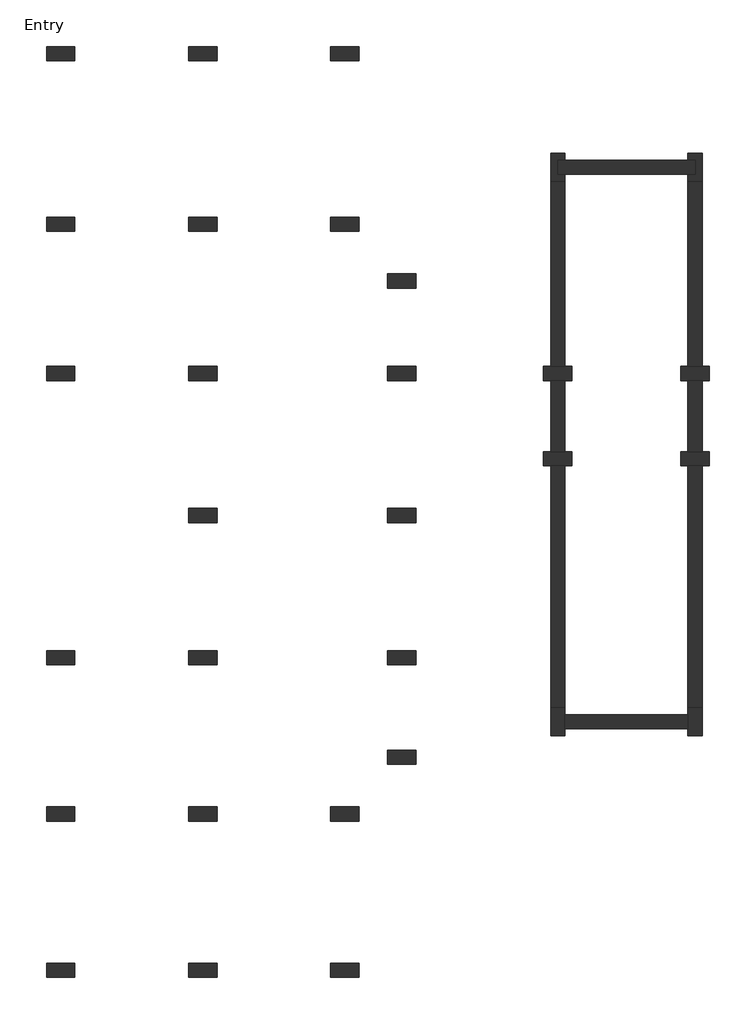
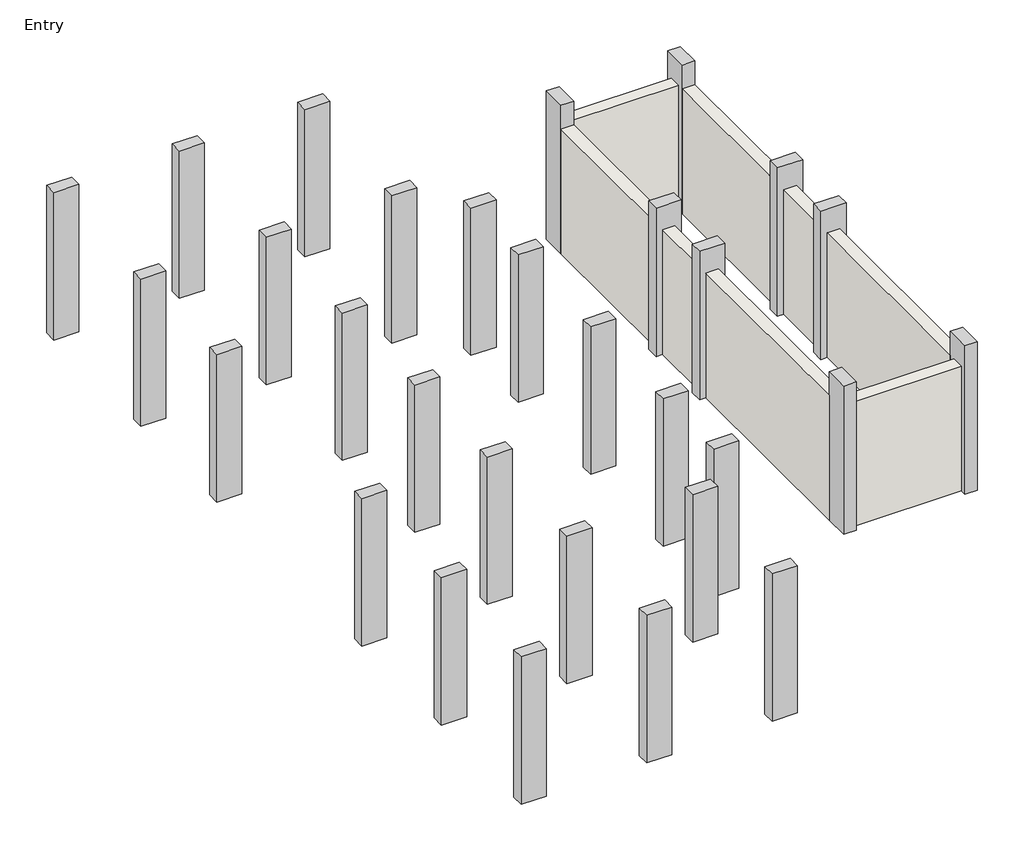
# One storey: 30 columns, 8 walls.
"""IFC4 building model written with IfcOpenShell, lengths in millimetres."""

import ifcopenshell
import ifcopenshell.guid

model = None  # the IFC model being written
_history = None  # IfcOwnerHistory: only IFC2X3 demands one
_inside = {}  # id of a spatial element -> (the spatial element, [elements in it])
_under = {}  # id of a project, library or spatial element -> (it, [spatial elements below it])
_declared = {}  # id of a project -> (the project, [libraries it declares])
_typed = {}  # id of a type object -> (the type object, [elements of that type])
_made_of = {}  # id of a material, layer set ... -> (it, [elements and type objects made of it])


def new_model(schema):
    """Start an empty IFC model of exactly this schema.

    Asked for "IFC4X3", IfcOpenShell would pick the latest addendum, in which some entities
    have other attributes; the version numbers below select the first issue.
    IFC2X3 requires an IfcOwnerHistory on every rooted entity: one is made here for all.
    """
    global model, _history
    if schema == "IFC4X3":
        model = ifcopenshell.file(schema_version=(4, 3, 0, 0))
    else:
        model = ifcopenshell.file(schema=schema)
    _inside.clear()
    _under.clear()
    _declared.clear()
    _typed.clear()
    _made_of.clear()
    _history = None
    if model.schema == "IFC2X3":
        org = make("IfcOrganization", Name="unknown")
        user = make(
            "IfcPersonAndOrganization",
            ThePerson=make("IfcPerson", FamilyName="unknown"),
            TheOrganization=org,
        )
        app = make(
            "IfcApplication",
            ApplicationDeveloper=org,
            Version="unknown",
            ApplicationFullName="unknown",
            ApplicationIdentifier="unknown",
        )
        _history = make(
            "IfcOwnerHistory",
            OwningUser=user,
            OwningApplication=app,
            ChangeAction="ADDED",
            CreationDate=0,
        )
    return model


def make(cls, **values):
    """One entity of the class cls with the attributes given. An attribute that is None is left unset."""
    return model.create_entity(
        cls, **{name: value for name, value in values.items() if value is not None}
    )


def rooted(cls, **values):
    """An entity with a GlobalId (a new one), such as an element, a storey or a relation."""
    return make(cls, GlobalId=ifcopenshell.guid.new(), OwnerHistory=_history, **values)


def si_unit(unit_type, name, prefix=None):
    """IfcSIUnit, for example si_unit("LENGTHUNIT", "METRE", prefix="MILLI")."""
    return make("IfcSIUnit", UnitType=unit_type, Prefix=prefix, Name=name)


def assignment(units):
    """IfcUnitAssignment: the units of a project."""
    return None if units is None else make("IfcUnitAssignment", Units=units)


def point(xyz):
    """IfcCartesianPoint."""
    return None if xyz is None else make("IfcCartesianPoint", Coordinates=xyz)


def direction(xyz):
    """IfcDirection."""
    return None if xyz is None else make("IfcDirection", DirectionRatios=xyz)


def frame(location, z_axis=None, x_axis=None):
    """IfcAxis2Placement3D, a coordinate frame: its origin and axes. An axis left out is left unset."""
    return make(
        "IfcAxis2Placement3D",
        Location=point(location),
        Axis=direction(z_axis),
        RefDirection=direction(x_axis),
    )


def origin():
    """The frame at (0, 0, 0) with its axes left unset."""
    return frame((0.0, 0.0, 0.0))


def origin_with_axes():
    """The frame at (0, 0, 0) with the z axis (0, 0, 1) and the x axis (1, 0, 0) written out."""
    return frame((0.0, 0.0, 0.0), z_axis=(0.0, 0.0, 1.0), x_axis=(1.0, 0.0, 0.0))


def place(relative_to, where):
    """IfcLocalPlacement: puts the frame where relative to a parent placement (None: the world)."""
    return make(
        "IfcLocalPlacement", PlacementRelTo=relative_to, RelativePlacement=where
    )


def context(
    kind, dimensions, precision=None, world=None, true_north=None, identifier=None
):
    """IfcGeometricRepresentationContext, for example the 3D "Model" context."""
    return make(
        "IfcGeometricRepresentationContext",
        ContextIdentifier=identifier,
        ContextType=kind,
        CoordinateSpaceDimension=dimensions,
        Precision=precision,
        WorldCoordinateSystem=world,
        TrueNorth=true_north,
    )


def project(units=None, contexts=None):
    """IfcProject with its units and contexts."""
    return rooted(
        "IfcProject",
        Name="project",
        RepresentationContexts=contexts,
        UnitsInContext=assignment(units),
    )


def spatial(cls, under=None, at=None, **own):
    """A site, building, storey or space (cls), placed at a placement, below another one or the project."""
    s = rooted(cls, ObjectPlacement=at, **own)
    if under is not None:
        _under.setdefault(under.id(), (under, []))[1].append(s)
    return s


def polyline(points):
    """IfcPolyline through the points."""
    return make("IfcPolyline", Points=[point(p) for p in points])


def outline(outer, holes=None, kind="AREA"):
    """IfcArbitraryClosedProfileDef: a profile drawn as a closed curve; with holes, ...WithVoids."""
    if holes is None:
        return make("IfcArbitraryClosedProfileDef", ProfileType=kind, OuterCurve=outer)
    return make(
        "IfcArbitraryProfileDefWithVoids",
        ProfileType=kind,
        OuterCurve=outer,
        InnerCurves=holes,
    )


def extrude(swept, where, along, depth):
    """IfcExtrudedAreaSolid: the profile swept, set in the frame where, extruded along a direction by depth."""
    return make(
        "IfcExtrudedAreaSolid",
        SweptArea=swept,
        Position=where,
        ExtrudedDirection=direction(along),
        Depth=depth,
    )


def faces_of(points, faces, orient=None, outer=None):
    """IfcFace entities. A face is a list of loops; a loop is a list of indices into points, from 0.

    orient and outer hold one flag for each loop. By default every Orientation is true, the
    first loop of a face is its IfcFaceOuterBound and the others are IfcFaceBound.
    """
    made = []
    for i, loops in enumerate(faces):
        bounds = []
        for j, loop in enumerate(loops):
            is_outer = j == 0 if outer is None else outer[i][j]
            bounds.append(
                make(
                    "IfcFaceOuterBound" if is_outer else "IfcFaceBound",
                    Bound=make("IfcPolyLoop", Polygon=[points[k] for k in loop]),
                    Orientation=True if orient is None else orient[i][j],
                )
            )
        made.append(make("IfcFace", Bounds=bounds))
    return made


def faceted_brep(points, faces, orient=None, outer=None, voids=None):
    """IfcFacetedBrep: a solid bounded by flat faces; with voids (closed shells), ...WithVoids."""
    shared = [point(p) for p in points]
    hull = make("IfcClosedShell", CfsFaces=faces_of(shared, faces, orient, outer))
    if voids is None:
        return make("IfcFacetedBrep", Outer=hull)
    return make(
        "IfcFacetedBrepWithVoids",
        Outer=hull,
        Voids=[
            make(cls, CfsFaces=faces_of(shared, fs, o, b)) for cls, fs, o, b in voids
        ],
    )


def shape(context_of_items, identifier, shape_type, items):
    """IfcShapeRepresentation: the items that make up one representation, for example the "Body"."""
    return make(
        "IfcShapeRepresentation",
        ContextOfItems=context_of_items,
        RepresentationIdentifier=identifier,
        RepresentationType=shape_type,
        Items=items,
    )


def source(mapping_origin, context_of_items, identifier, shape_type, items):
    """IfcRepresentationMap: a shape defined once, which mapped items show again and again."""
    return make(
        "IfcRepresentationMap",
        MappingOrigin=mapping_origin,
        MappedRepresentation=shape(context_of_items, identifier, shape_type, items),
    )


def transform(
    local_origin,
    x_axis=None,
    y_axis=None,
    z_axis=None,
    scale=None,
    scale2=None,
    scale3=None,
    uniform=True,
):
    """IfcCartesianTransformationOperator3D, or its non-uniform kind. x_axis, y_axis, z_axis: its Axis1, 2, 3."""
    if uniform:
        return make(
            "IfcCartesianTransformationOperator3D",
            Axis1=direction(x_axis),
            Axis2=direction(y_axis),
            LocalOrigin=point(local_origin),
            Scale=scale,
            Axis3=direction(z_axis),
        )
    return make(
        "IfcCartesianTransformationOperator3DnonUniform",
        Axis1=direction(x_axis),
        Axis2=direction(y_axis),
        LocalOrigin=point(local_origin),
        Scale=scale,
        Axis3=direction(z_axis),
        Scale2=scale2,
        Scale3=scale3,
    )


def mapped(mapping_source, mapping_target):
    """IfcMappedItem: shows the shape of a source again, moved by a transform."""
    return make(
        "IfcMappedItem", MappingSource=mapping_source, MappingTarget=mapping_target
    )


def made_of(thing, what):
    """Note that an element or type object is made of a material, layer set ...; save() writes the relation."""
    if what is not None:
        _made_of.setdefault(what.id(), (what, []))[1].append(thing)
    return thing


def element(
    cls,
    number,
    at=None,
    inside=None,
    cuts=None,
    type_object=None,
    material=None,
    context=None,
    identifier="Body",
    shape_type=None,
    held_by="IfcProductDefinitionShape",
    body=None,
    shapes=None,
    **own,
):
    """One element of the class cls, such as IfcWall. Its Tag is "e" and its number.

    at: its placement. inside: the storey or other place that contains it. cuts: it is an
    opening in that element (IfcRelVoidsElement). A single representation is given by context,
    identifier, shape_type and body (its items); several are given by shapes. held_by: the class
    of the entity that holds the representations. save() writes the other relations.
    """
    e = rooted(cls, Tag="e%d" % number, ObjectPlacement=at, **own)
    if body is not None:
        shapes = [shape(context, identifier, shape_type, body)]
    if shapes is not None:
        e.Representation = make(held_by, Representations=shapes)
    if inside is not None:
        _inside.setdefault(inside.id(), (inside, []))[1].append(e)
    if cuts is not None:
        rooted(
            "IfcRelVoidsElement", RelatingBuildingElement=cuts, RelatedOpeningElement=e
        )
    if type_object is not None:
        _typed.setdefault(type_object.id(), (type_object, []))[1].append(e)
    return made_of(e, material)


def aggregate(whole, parts):
    """IfcRelAggregates: a whole, such as a stair, and the parts it consists of."""
    return rooted("IfcRelAggregates", RelatingObject=whole, RelatedObjects=parts)


def save(model, path):
    """Write the relations noted so far, then the file.

    IfcRelAggregates (storeys below a building ...), IfcRelContainedInSpatialStructure (elements
    in a storey), IfcRelDefinesByType, IfcRelAssociatesMaterial and IfcRelDeclares: one each for
    every whole, place, type object, material and project.
    """
    for whole, parts in _under.values():
        aggregate(whole, parts)
    for where, things in _inside.values():
        rooted(
            "IfcRelContainedInSpatialStructure",
            RelatedElements=things,
            RelatingStructure=where,
        )
    for kind, things in _typed.values():
        rooted("IfcRelDefinesByType", RelatedObjects=things, RelatingType=kind)
    for what, things in _made_of.values():
        rooted("IfcRelAssociatesMaterial", RelatedObjects=things, RelatingMaterial=what)
    for by, libraries in _declared.values():
        rooted("IfcRelDeclares", RelatingContext=by, RelatedDefinitions=libraries)
    model.write(path)


def concrete_rectangular_column_12_x_24_13f89b02(model_context):
    return source(origin(), model_context, "Body", "SweptSolid", [
        extrude(outline(polyline([(152.4, 304.8), (152.4, -304.8), (-152.4, -304.8), (-152.4, 304.8), (152.4, 304.8)])), origin_with_axes(), (0.0, 0.0, 1.0), 3784.6),
    ])


model = new_model("IFC4")

# Units and contexts
model_context = context("Model", 3, world=origin())
ifc_project = project(units=[si_unit("LENGTHUNIT", "METRE", prefix="MILLI")], contexts=[model_context])

# Site, building, storey
site = spatial("IfcSite", under=ifc_project)
building = spatial("IfcBuilding", under=site)
storey = spatial("IfcBuildingStorey", under=building, Name="Entry", Elevation=0.0)

# Columns
placement = place(None, origin())
element("IfcColumn", 1, ObjectType="Concrete-Rectangular-Column : 12 x 24", at=placement, inside=storey, context=model_context, shape_type="Brep", body=[
    faceted_brep([(-18217.8572388, 16163.6740068, 0.0), (-18065.4572388, 16163.6740068, 0.0), (-17760.6572388, 16163.6740068, 0.0), (-17608.2572388, 16163.6740068, 0.0), (-17608.2572388, 15858.8740068, 0.0), (-17760.6572388, 15858.8740068, 0.0), (-18065.4572388, 15858.8740068, 0.0), (-18217.8572388, 15858.8740068, 0.0), (-18217.8572388, 16163.6740068, 3810.0), (-17608.2572388, 16163.6740068, 3810.0), (-17608.2572388, 15858.8740068, 3810.0), (-18217.8572388, 15858.8740068, 3810.0)], [[[0, 1, 2, 3, 4, 5, 6, 7]], [[8, 9, 3, 2, 1, 0]], [[9, 10, 4, 3]], [[10, 11, 7, 6, 5, 4]], [[11, 8, 0, 7]], [[8, 11, 10, 9]]]),
])
element("IfcColumn", 2, ObjectType="Concrete-Rectangular-Column : 12 x 24", at=placement, inside=storey, context=model_context, shape_type="Brep", body=[
    faceted_brep([(-15271.4572388, 16163.6740068, 0.0), (-15119.0572388, 16163.6740068, 0.0), (-14814.2572388, 16163.6740068, 0.0), (-14661.8572388, 16163.6740068, 0.0), (-14661.8572388, 15858.8740068, 0.0), (-14814.2572388, 15858.8740068, 0.0), (-15119.0572388, 15858.8740068, 0.0), (-15271.4572388, 15858.8740068, 0.0), (-15271.4572388, 16163.6740068, 3810.0), (-14661.8572388, 16163.6740068, 3810.0), (-14661.8572388, 15858.8740068, 3810.0), (-15271.4572388, 15858.8740068, 3810.0)], [[[0, 1, 2, 3, 4, 5, 6, 7]], [[8, 9, 3, 2, 1, 0]], [[9, 10, 4, 3]], [[10, 11, 7, 6, 5, 4]], [[11, 8, 0, 7]], [[8, 11, 10, 9]]]),
])
element("IfcColumn", 3, ObjectType="Concrete-Rectangular-Column : 12 x 24", at=placement, inside=storey, context=model_context, shape_type="Brep", body=[
    faceted_brep([(-18217.8572388, 14334.8740068, 0.0), (-18065.4572388, 14334.8740068, 0.0), (-17760.6572388, 14334.8740068, 0.0), (-17608.2572388, 14334.8740068, 0.0), (-17608.2572388, 14030.0740068, 0.0), (-17760.6572388, 14030.0740068, 0.0), (-18065.4572388, 14030.0740068, 0.0), (-18217.8572388, 14030.0740068, 0.0), (-18217.8572388, 14334.8740068, 3810.0), (-17608.2572388, 14334.8740068, 3810.0), (-17608.2572388, 14030.0740068, 3810.0), (-18217.8572388, 14030.0740068, 3810.0)], [[[0, 1, 2, 3, 4, 5, 6, 7]], [[8, 9, 3, 2, 1, 0]], [[9, 10, 4, 3]], [[10, 11, 7, 6, 5, 4]], [[11, 8, 0, 7]], [[8, 11, 10, 9]]]),
])
element("IfcColumn", 4, ObjectType="Concrete-Rectangular-Column : 12 x 24", at=placement, inside=storey, context=model_context, shape_type="Brep", body=[
    faceted_brep([(-15271.4572388, 14334.8740068, 0.0), (-15119.0572388, 14334.8740068, 0.0), (-14814.2572388, 14334.8740068, 0.0), (-14661.8572388, 14334.8740068, 0.0), (-14661.8572388, 14030.0740068, 0.0), (-14814.2572388, 14030.0740068, 0.0), (-15119.0572388, 14030.0740068, 0.0), (-15271.4572388, 14030.0740068, 0.0), (-15271.4572388, 14334.8740068, 3810.0), (-14661.8572388, 14334.8740068, 3810.0), (-14661.8572388, 14030.0740068, 3810.0), (-15271.4572388, 14030.0740068, 3810.0)], [[[0, 1, 2, 3, 4, 5, 6, 7]], [[8, 9, 3, 2, 1, 0]], [[9, 10, 4, 3]], [[10, 11, 7, 6, 5, 4]], [[11, 8, 0, 7]], [[8, 11, 10, 9]]]),
])
element("IfcColumn", 5, ObjectType="Concrete-Rectangular-Column : 12 x 24", at=placement, inside=storey, context=model_context, shape_type="Brep", body=[
    faceted_brep([(-18065.4572388, 20126.0740068, 0.0), (-18065.4572388, 20735.6740068, 0.0), (-17760.6572388, 20735.6740068, 0.0), (-17760.6572388, 20583.2740068, 0.0), (-17913.0572388, 20583.2740068, 0.0), (-17913.0572388, 20278.4740068, 0.0), (-17760.6572388, 20278.4740068, 0.0), (-17760.6572388, 20126.0740068, 0.0), (-18065.4572388, 20126.0740068, 3200.4), (-18065.4572388, 20126.0740068, 3810.0), (-18065.4572388, 20735.6740068, 3810.0), (-17760.6572388, 20735.6740068, 3810.0), (-17760.6572388, 20126.0740068, 3810.0), (-17760.6572388, 20126.0740068, 3200.4), (-17760.6572388, 20278.4740068, 3200.4), (-17760.6572388, 20583.2740068, 3200.4), (-17913.0572388, 20583.2740068, 3200.4), (-17913.0572388, 20278.4740068, 3200.4)], [[[0, 1, 2, 3, 4, 5, 6, 7]], [[1, 0, 8, 9, 10]], [[2, 1, 10, 11]], [[2, 11, 12, 13, 7, 6, 14, 15, 3]], [[0, 7, 13, 12, 9, 8]], [[10, 9, 12, 11]], [[16, 4, 3, 15]], [[5, 17, 14, 6]], [[4, 16, 17, 5]], [[17, 16, 15, 14]]]),
])
element("IfcColumn", 6, ObjectType="Concrete-Rectangular-Column : 12 x 24", at=placement, inside=storey, context=model_context, shape_type="Brep", body=[
    faceted_brep([(-15119.0572388, 20735.6740068, 0.0), (-14814.2572388, 20735.6740068, 0.0), (-14814.2572388, 20126.0740068, 0.0), (-15119.0572388, 20126.0740068, 0.0), (-15119.0572388, 20278.4740068, 0.0), (-14966.6572388, 20278.4740068, 0.0), (-14966.6572388, 20583.2740068, 0.0), (-15119.0572388, 20583.2740068, 0.0), (-15119.0572388, 20126.0740068, 3810.0), (-15119.0572388, 20735.6740068, 3810.0), (-15119.0572388, 20583.2740068, 3200.4), (-15119.0572388, 20278.4740068, 3200.4), (-15119.0572388, 20126.0740068, 3200.4), (-14814.2572388, 20735.6740068, 3810.0), (-14814.2572388, 20126.0740068, 3810.0), (-14814.2572388, 20126.0740068, 3200.4), (-14966.6572388, 20583.2740068, 3200.4), (-14966.6572388, 20278.4740068, 3200.4)], [[[0, 1, 2, 3, 4, 5, 6, 7]], [[8, 9, 0, 7, 10, 11, 4, 3, 12]], [[1, 0, 9, 13]], [[2, 1, 13, 14, 15]], [[3, 2, 15, 14, 8, 12]], [[9, 8, 14, 13]], [[6, 16, 10, 7]], [[17, 5, 4, 11]], [[16, 6, 5, 17]], [[16, 17, 11, 10]]]),
])
element("IfcColumn", 7, ObjectType="Concrete-Rectangular-Column : 12 x 24", at=placement, inside=storey, context=model_context, shape_type="Brep", body=[
    faceted_brep([(-18065.4572388, 8238.8740068, 0.0), (-18065.4572388, 8848.4740068, 0.0), (-17760.6572388, 8848.4740068, 0.0), (-17760.6572388, 8696.0740068, 0.0), (-17760.6572388, 8391.2740068, 0.0), (-17760.6572388, 8238.8740068, 0.0), (-18065.4572388, 8238.8740068, 3810.0), (-18065.4572388, 8848.4740068, 3810.0), (-18065.4572388, 8848.4740068, 3200.4), (-17760.6572388, 8848.4740068, 3810.0), (-17760.6572388, 8848.4740068, 3200.4), (-17760.6572388, 8238.8740068, 3810.0)], [[[0, 1, 2, 3, 4, 5]], [[6, 7, 8, 1, 0]], [[7, 9, 10, 2, 1, 8]], [[9, 11, 5, 4, 3, 2, 10]], [[11, 6, 0, 5]], [[6, 11, 9, 7]]]),
])
element("IfcColumn", 8, ObjectType="Concrete-Rectangular-Column : 12 x 24", at=placement, inside=storey, context=model_context, shape_type="Brep", body=[
    faceted_brep([(-15119.0572388, 8238.8740068, 0.0), (-15119.0572388, 8391.2740068, 0.0), (-15119.0572388, 8696.0740068, 0.0), (-15119.0572388, 8848.4740068, 0.0), (-14814.2572388, 8848.4740068, 0.0), (-14814.2572388, 8238.8740068, 0.0), (-15119.0572388, 8238.8740068, 3810.0), (-15119.0572388, 8848.4740068, 3810.0), (-15119.0572388, 8848.4740068, 3200.4), (-14814.2572388, 8848.4740068, 3810.0), (-14814.2572388, 8848.4740068, 3200.4), (-14814.2572388, 8238.8740068, 3810.0)], [[[0, 1, 2, 3, 4, 5]], [[6, 7, 8, 3, 2, 1, 0]], [[7, 9, 10, 4, 3, 8]], [[9, 11, 5, 4, 10]], [[11, 6, 0, 5]], [[6, 11, 9, 7]]]),
])
concrete_rectangular_column_12_x_24_shape = concrete_rectangular_column_12_x_24_13f89b02(model_context)
element("IfcColumn", 9, ObjectType="Concrete-Rectangular-Column : 12 x 24", at=placement, inside=storey, context=model_context, shape_type="MappedRepresentation", body=[
    mapped(concrete_rectangular_column_12_x_24_shape, transform((-28581.0572388, 22869.2740068, 0.0), x_axis=(0.0, 1.0, 0.0), y_axis=(-1.0, 0.0, 0.0), z_axis=(0.0, 0.0, 1.0))),
])
element("IfcColumn", 10, ObjectType="Concrete-Rectangular-Column : 12 x 24", at=placement, inside=storey, context=model_context, shape_type="MappedRepresentation", body=[
    mapped(concrete_rectangular_column_12_x_24_shape, transform((-25533.0572388, 22869.2740068, 0.0), x_axis=(0.0, 1.0, 0.0), y_axis=(-1.0, 0.0, 0.0), z_axis=(0.0, 0.0, 1.0))),
])
element("IfcColumn", 11, ObjectType="Concrete-Rectangular-Column : 12 x 24", at=placement, inside=storey, context=model_context, shape_type="MappedRepresentation", body=[
    mapped(concrete_rectangular_column_12_x_24_shape, transform((-22485.0572388, 22869.2740068, 0.0), x_axis=(0.0, 1.0, 0.0), y_axis=(-1.0, 0.0, 0.0), z_axis=(0.0, 0.0, 1.0))),
])
element("IfcColumn", 12, ObjectType="Concrete-Rectangular-Column : 12 x 24", at=placement, inside=storey, context=model_context, shape_type="MappedRepresentation", body=[
    mapped(concrete_rectangular_column_12_x_24_shape, transform((-28581.0572388, 19211.6740068, 0.0), x_axis=(0.0, 1.0, 0.0), y_axis=(-1.0, 0.0, 0.0), z_axis=(0.0, 0.0, 1.0))),
])
element("IfcColumn", 13, ObjectType="Concrete-Rectangular-Column : 12 x 24", at=placement, inside=storey, context=model_context, shape_type="MappedRepresentation", body=[
    mapped(concrete_rectangular_column_12_x_24_shape, transform((-25533.0572388, 19211.6740068, 0.0), x_axis=(0.0, 1.0, 0.0), y_axis=(-1.0, 0.0, 0.0), z_axis=(0.0, 0.0, 1.0))),
])
element("IfcColumn", 14, ObjectType="Concrete-Rectangular-Column : 12 x 24", at=placement, inside=storey, context=model_context, shape_type="MappedRepresentation", body=[
    mapped(concrete_rectangular_column_12_x_24_shape, transform((-22485.0572388, 19211.6740068, 0.0), x_axis=(0.0, 1.0, 0.0), y_axis=(-1.0, 0.0, 0.0), z_axis=(0.0, 0.0, 1.0))),
])
element("IfcColumn", 15, ObjectType="Concrete-Rectangular-Column : 12 x 24", at=placement, inside=storey, context=model_context, shape_type="MappedRepresentation", body=[
    mapped(concrete_rectangular_column_12_x_24_shape, transform((-21265.8572388, 17992.4740068, 0.0), x_axis=(0.0, 1.0, 0.0), y_axis=(-1.0, 0.0, 0.0), z_axis=(0.0, 0.0, 1.0))),
])
element("IfcColumn", 16, ObjectType="Concrete-Rectangular-Column : 12 x 24", at=placement, inside=storey, context=model_context, shape_type="MappedRepresentation", body=[
    mapped(concrete_rectangular_column_12_x_24_shape, transform((-28581.0572388, 16011.2740068, 0.0), x_axis=(0.0, 1.0, 0.0), y_axis=(-1.0, 0.0, 0.0), z_axis=(0.0, 0.0, 1.0))),
])
element("IfcColumn", 17, ObjectType="Concrete-Rectangular-Column : 12 x 24", at=placement, inside=storey, context=model_context, shape_type="MappedRepresentation", body=[
    mapped(concrete_rectangular_column_12_x_24_shape, transform((-25533.0572388, 16011.2740068, 0.0), x_axis=(0.0, 1.0, 0.0), y_axis=(-1.0, 0.0, 0.0), z_axis=(0.0, 0.0, 1.0))),
])
element("IfcColumn", 18, ObjectType="Concrete-Rectangular-Column : 12 x 24", at=placement, inside=storey, context=model_context, shape_type="MappedRepresentation", body=[
    mapped(concrete_rectangular_column_12_x_24_shape, transform((-21265.8572388, 16011.2740068, 0.0), x_axis=(0.0, 1.0, 0.0), y_axis=(-1.0, 0.0, 0.0), z_axis=(0.0, 0.0, 1.0))),
])
element("IfcColumn", 19, ObjectType="Concrete-Rectangular-Column : 12 x 24", at=placement, inside=storey, context=model_context, shape_type="MappedRepresentation", body=[
    mapped(concrete_rectangular_column_12_x_24_shape, transform((-25533.0572388, 12963.2740068, 0.0), x_axis=(0.0, 1.0, 0.0), y_axis=(-1.0, 0.0, 0.0), z_axis=(0.0, 0.0, 1.0))),
])
element("IfcColumn", 20, ObjectType="Concrete-Rectangular-Column : 12 x 24", at=placement, inside=storey, context=model_context, shape_type="MappedRepresentation", body=[
    mapped(concrete_rectangular_column_12_x_24_shape, transform((-21265.8572388, 12963.2740068, 0.0), x_axis=(0.0, 1.0, 0.0), y_axis=(-1.0, 0.0, 0.0), z_axis=(0.0, 0.0, 1.0))),
])
element("IfcColumn", 21, ObjectType="Concrete-Rectangular-Column : 12 x 24", at=placement, inside=storey, context=model_context, shape_type="MappedRepresentation", body=[
    mapped(concrete_rectangular_column_12_x_24_shape, transform((-28581.0572388, 9915.2740068, 0.0), x_axis=(0.0, 1.0, 0.0), y_axis=(-1.0, 0.0, 0.0), z_axis=(0.0, 0.0, 1.0))),
])
element("IfcColumn", 22, ObjectType="Concrete-Rectangular-Column : 12 x 24", at=placement, inside=storey, context=model_context, shape_type="MappedRepresentation", body=[
    mapped(concrete_rectangular_column_12_x_24_shape, transform((-25533.0572388, 9915.2740068, 0.0), x_axis=(0.0, 1.0, 0.0), y_axis=(-1.0, 0.0, 0.0), z_axis=(0.0, 0.0, 1.0))),
])
element("IfcColumn", 23, ObjectType="Concrete-Rectangular-Column : 12 x 24", at=placement, inside=storey, context=model_context, shape_type="MappedRepresentation", body=[
    mapped(concrete_rectangular_column_12_x_24_shape, transform((-21265.8572388, 9915.2740068, 0.0), x_axis=(0.0, 1.0, 0.0), y_axis=(-1.0, 0.0, 0.0), z_axis=(0.0, 0.0, 1.0))),
])
element("IfcColumn", 24, ObjectType="Concrete-Rectangular-Column : 12 x 24", at=placement, inside=storey, context=model_context, shape_type="MappedRepresentation", body=[
    mapped(concrete_rectangular_column_12_x_24_shape, transform((-21265.8572388, 7781.6740068, 0.0), x_axis=(0.0, 1.0, 0.0), y_axis=(-1.0, 0.0, 0.0), z_axis=(0.0, 0.0, 1.0))),
])
element("IfcColumn", 25, ObjectType="Concrete-Rectangular-Column : 12 x 24", at=placement, inside=storey, context=model_context, shape_type="MappedRepresentation", body=[
    mapped(concrete_rectangular_column_12_x_24_shape, transform((-28581.0572388, 6562.4740068, 0.0), x_axis=(0.0, 1.0, 0.0), y_axis=(-1.0, 0.0, 0.0), z_axis=(0.0, 0.0, 1.0))),
])
element("IfcColumn", 26, ObjectType="Concrete-Rectangular-Column : 12 x 24", at=placement, inside=storey, context=model_context, shape_type="MappedRepresentation", body=[
    mapped(concrete_rectangular_column_12_x_24_shape, transform((-25533.0572388, 6562.4740068, 0.0), x_axis=(0.0, 1.0, 0.0), y_axis=(-1.0, 0.0, 0.0), z_axis=(0.0, 0.0, 1.0))),
])
element("IfcColumn", 27, ObjectType="Concrete-Rectangular-Column : 12 x 24", at=placement, inside=storey, context=model_context, shape_type="MappedRepresentation", body=[
    mapped(concrete_rectangular_column_12_x_24_shape, transform((-22485.0572388, 6562.4740068, 0.0), x_axis=(0.0, 1.0, 0.0), y_axis=(-1.0, 0.0, 0.0), z_axis=(0.0, 0.0, 1.0))),
])
element("IfcColumn", 28, ObjectType="Concrete-Rectangular-Column : 12 x 24", at=placement, inside=storey, context=model_context, shape_type="MappedRepresentation", body=[
    mapped(concrete_rectangular_column_12_x_24_shape, transform((-28581.0572388, 3209.6740068, 0.0), x_axis=(0.0, 1.0, 0.0), y_axis=(-1.0, 0.0, 0.0), z_axis=(0.0, 0.0, 1.0))),
])
element("IfcColumn", 29, ObjectType="Concrete-Rectangular-Column : 12 x 24", at=placement, inside=storey, context=model_context, shape_type="MappedRepresentation", body=[
    mapped(concrete_rectangular_column_12_x_24_shape, transform((-25533.0572388, 3209.6740068, 0.0), x_axis=(0.0, 1.0, 0.0), y_axis=(-1.0, 0.0, 0.0), z_axis=(0.0, 0.0, 1.0))),
])
element("IfcColumn", 30, ObjectType="Concrete-Rectangular-Column : 12 x 24", at=placement, inside=storey, context=model_context, shape_type="MappedRepresentation", body=[
    mapped(concrete_rectangular_column_12_x_24_shape, transform((-22485.0572388, 3209.6740068, 0.0), x_axis=(0.0, 1.0, 0.0), y_axis=(-1.0, 0.0, 0.0), z_axis=(0.0, 0.0, 1.0))),
])

# Walls
element("IfcWall", 31, ObjectType="Core-Shaft - 12'' Concrete", at=placement, inside=storey, context=model_context, shape_type="Brep", body=[
    faceted_brep([(-14966.6572388, 20583.2740068, 0.0), (-15119.0572388, 20583.2740068, 0.0), (-17760.6572388, 20583.2740068, 0.0), (-17913.0572388, 20583.2740068, 0.0), (-17913.0572388, 20583.2740068, 3200.4), (-17760.6572388, 20583.2740068, 3200.4), (-15119.0572388, 20583.2740068, 3200.4), (-14966.6572388, 20583.2740068, 3200.4), (-14966.6572388, 20278.4740068, 0.0), (-14966.6572388, 20278.4740068, 3200.4), (-15119.0572388, 20278.4740068, 3200.4), (-17760.6572388, 20278.4740068, 3200.4), (-17913.0572388, 20278.4740068, 3200.4), (-17913.0572388, 20278.4740068, 0.0), (-17760.6572388, 20278.4740068, 0.0), (-15119.0572388, 20278.4740068, 0.0)], [[[0, 1, 2, 3, 4, 5, 6, 7]], [[8, 9, 10, 11, 12, 13, 14, 15]], [[3, 2, 1, 0, 8, 15, 14, 13]], [[4, 3, 13, 12]], [[7, 6, 5, 4, 12, 11, 10, 9]], [[0, 7, 9, 8]]]),
])
element("IfcWall", 32, ObjectType="Core-Shaft - 12'' Concrete", at=placement, inside=storey, context=model_context, shape_type="SweptSolid", body=[
    extrude(outline(polyline([(-15119.0572388, 16163.6740068), (-15119.0572388, 20126.0740068), (-14814.2572388, 20126.0740068), (-14814.2572388, 16163.6740068), (-15119.0572388, 16163.6740068)])), origin_with_axes(), (0.0, 0.0, 1.0), 3200.4),
])
element("IfcWall", 33, ObjectType="Core-Shaft - 12'' Concrete", at=placement, inside=storey, context=model_context, shape_type="SweptSolid", body=[
    extrude(outline(polyline([(-15119.0572388, 14334.8740068), (-15119.0572388, 15858.8740068), (-14814.2572388, 15858.8740068), (-14814.2572388, 14334.8740068), (-15119.0572388, 14334.8740068)])), origin_with_axes(), (0.0, 0.0, 1.0), 3200.4),
])
element("IfcWall", 34, ObjectType="Core-Shaft - 12'' Concrete", at=placement, inside=storey, context=model_context, shape_type="SweptSolid", body=[
    extrude(outline(polyline([(-15119.0572388, 8848.4740068), (-15119.0572388, 14030.0740068), (-14814.2572388, 14030.0740068), (-14814.2572388, 8848.4740068), (-15119.0572388, 8848.4740068)])), origin_with_axes(), (0.0, 0.0, 1.0), 3200.4),
])
element("IfcWall", 35, ObjectType="Core-Shaft - 12'' Concrete", at=placement, inside=storey, context=model_context, shape_type="SweptSolid", body=[
    extrude(outline(polyline([(-17760.6572388, 8696.0740068), (-15119.0572388, 8696.0740068), (-15119.0572388, 8391.2740068), (-17760.6572388, 8391.2740068), (-17760.6572388, 8696.0740068)])), origin_with_axes(), (0.0, 0.0, 1.0), 3200.4),
])
element("IfcWall", 36, ObjectType="Core-Shaft - 12'' Concrete", at=placement, inside=storey, context=model_context, shape_type="SweptSolid", body=[
    extrude(outline(polyline([(-17760.6572388, 14030.0740068), (-17760.6572388, 8848.4740068), (-18065.4572388, 8848.4740068), (-18065.4572388, 14030.0740068), (-17760.6572388, 14030.0740068)])), origin_with_axes(), (0.0, 0.0, 1.0), 3200.4),
])
element("IfcWall", 37, ObjectType="Core-Shaft - 12'' Concrete", at=placement, inside=storey, context=model_context, shape_type="SweptSolid", body=[
    extrude(outline(polyline([(-17760.6572388, 15858.8740068), (-17760.6572388, 14334.8740068), (-18065.4572388, 14334.8740068), (-18065.4572388, 15858.8740068), (-17760.6572388, 15858.8740068)])), origin_with_axes(), (0.0, 0.0, 1.0), 3200.4),
])
element("IfcWall", 38, ObjectType="Core-Shaft - 12'' Concrete", at=placement, inside=storey, context=model_context, shape_type="SweptSolid", body=[
    extrude(outline(polyline([(-17760.6572388, 20126.0740068), (-17760.6572388, 16163.6740068), (-18065.4572388, 16163.6740068), (-18065.4572388, 20126.0740068), (-17760.6572388, 20126.0740068)])), origin_with_axes(), (0.0, 0.0, 1.0), 3200.4),
])

save(model, "model.ifc")
